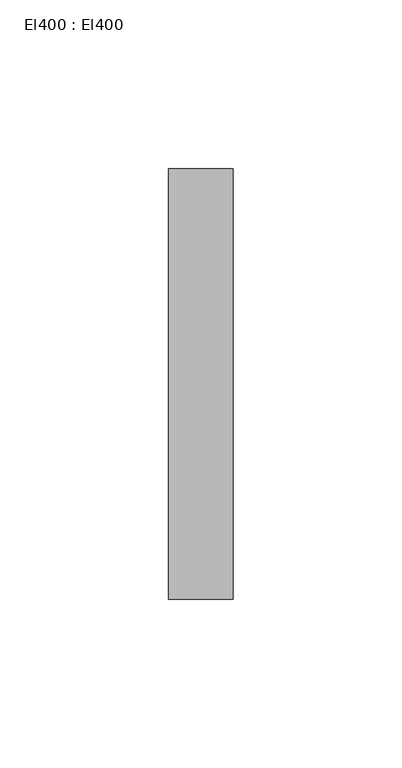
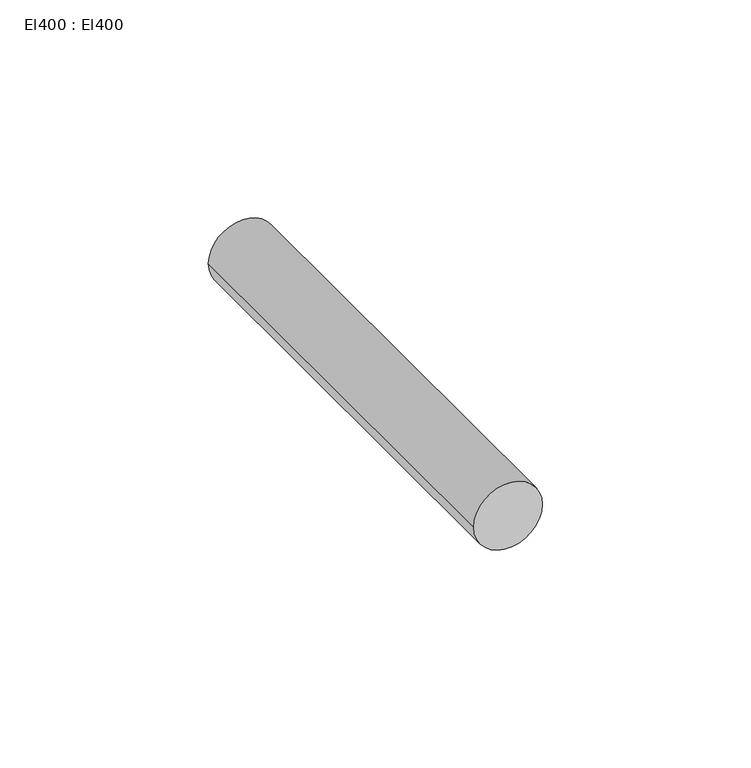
"""IFC4 building model written with IfcOpenShell, lengths in millimetres: cable carrier segment geometry, El400 : El400."""

from ifc_helpers import new_model, si_unit, point, frame, frame_2d, origin, place, context, project, spatial, circle_curve, trimmed, segment, composite_curve, outline, extrude, source, transform, mapped, element, save


def el400_el400_c3917788(model_context):
    return source(origin(), model_context, "Body", "SweptSolid", [
        extrude(outline(composite_curve([segment(trimmed(circle_curve(frame_2d((1200.0, 6600.0)), 9.5), [point((1200.0, 6590.5))], [point((1200.0, 6609.5))], False, "CARTESIAN"), True, "CONTINUOUS"), segment(trimmed(circle_curve(frame_2d((1200.0, 6600.0)), 9.5), [point((1200.0, 6609.5))], [point((1200.0, 6590.5))], False, "CARTESIAN"), True, "CONTINUOUS")], self_intersect=False)), frame((0.0, 27264.9684, 0.0), z_axis=(0.0, 1.0, 0.0), x_axis=(0.0, 0.0, 1.0)), (0.0, 0.0, 1.0), 127.263),
    ])


if __name__ == "__main__":
    model = new_model("IFC4")
    model_context = context("Model", 3, world=origin())
    ifc_project = project(units=[si_unit("LENGTHUNIT", "METRE", prefix="MILLI")], contexts=[model_context])
    site = spatial("IfcSite", under=ifc_project)
    building = spatial("IfcBuilding", under=site)
    placement = place(None, origin())
    el400_el400_shape = el400_el400_c3917788(model_context)
    element("IfcCableCarrierSegment", 1, ObjectType="El400 : El400", at=placement, inside=building, context=model_context, shape_type="MappedRepresentation", body=[
        mapped(el400_el400_shape, transform((0.0, 0.0, 0.0), x_axis=(1.0, 0.0, 0.0), y_axis=(0.0, 1.0, 0.0), z_axis=(0.0, 0.0, 1.0))),
    ])
    save(model, "model.ifc")
